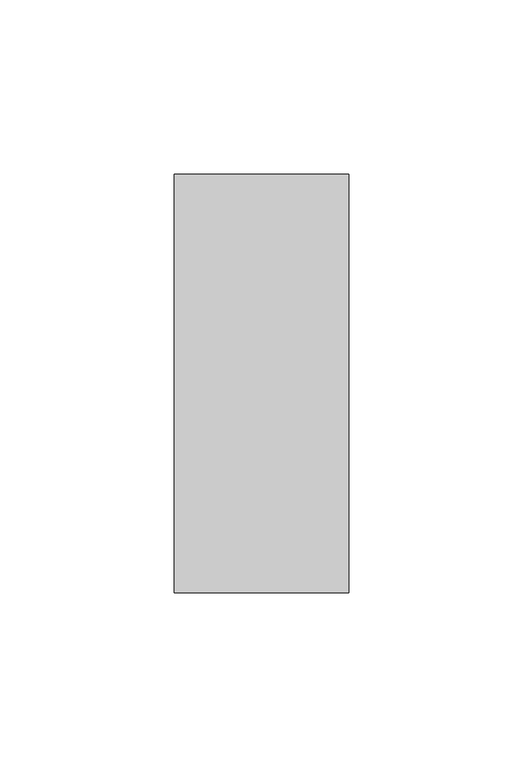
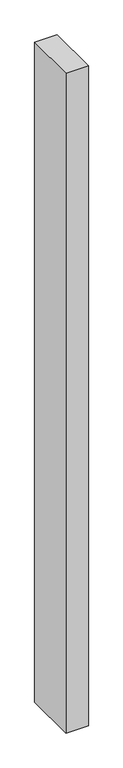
"""IFC4 building model written with IfcOpenShell, lengths in millimetres: member geometry, Прямоугольный импост : 50х120 мм."""

from ifc_helpers import new_model, si_unit, frame, origin, place, context, project, spatial, polyline, outline, extrude, source, transform, mapped, element, save


def member_848a273c(model_context):
    return source(origin(), model_context, "Body", "SweptSolid", [
        extrude(outline(polyline([(25.0, 60.0), (25.0, -60.0), (-25.0, -60.0), (-25.0, 60.0), (25.0, 60.0)])), frame((0.0, 0.0, -1550.0455365), z_axis=(0.0, 0.0, 1.0), x_axis=(1.0, 0.0, 0.0)), (0.0, 0.0, 1.0), 1550.0455365),
    ])


if __name__ == "__main__":
    model = new_model("IFC4")
    model_context = context("Model", 3, world=origin())
    ifc_project = project(units=[si_unit("LENGTHUNIT", "METRE", prefix="MILLI")], contexts=[model_context])
    site = spatial("IfcSite", under=ifc_project)
    building = spatial("IfcBuilding", under=site)
    placement = place(None, origin())
    member_shape = member_848a273c(model_context)
    element("IfcMember", 1, ObjectType="Прямоугольный импост : 50х120 мм", at=placement, inside=building, context=model_context, shape_type="MappedRepresentation", body=[
        mapped(member_shape, transform((0.0, 0.0, 0.0), x_axis=(1.0, 0.0, 0.0), y_axis=(0.0, 1.0, 0.0), z_axis=(0.0, 0.0, 1.0))),
    ])
    save(model, "model.ifc")
